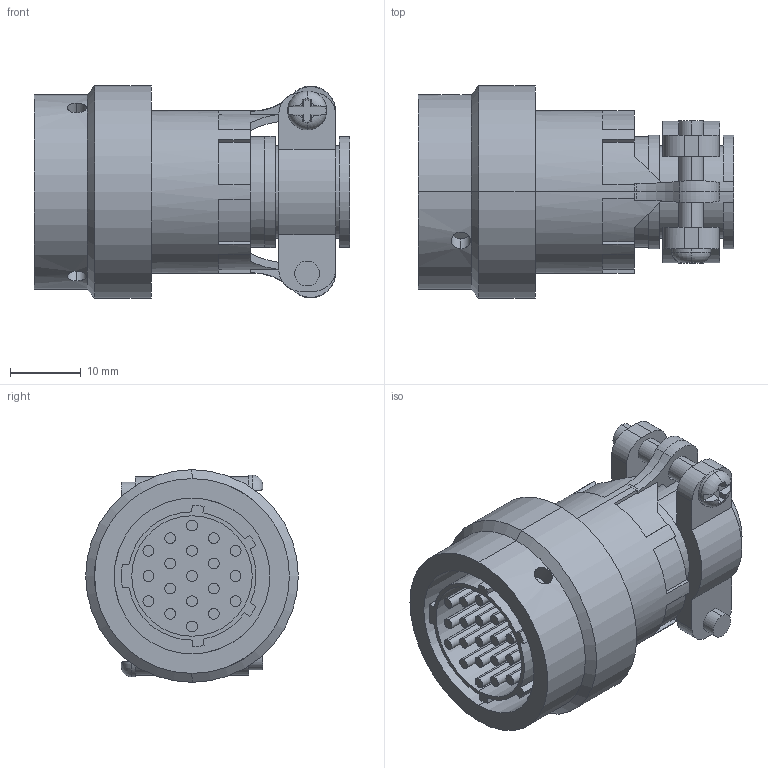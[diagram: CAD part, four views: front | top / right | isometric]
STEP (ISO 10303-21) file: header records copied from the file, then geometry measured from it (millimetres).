
FILE_DESCRIPTION (( 'STEP AP214' ), '1' );
FILE_NAME ('MS3116F14-19P.STEP', '2021-06-09T09:36:16', ( '微软用户' ), ( '微软中国' ), 'SwSTEP 2.0', 'SolidWorks 2018', '' );
FILE_SCHEMA (( 'AUTOMOTIVE_DESIGN' ));
Length unit declared in the file: millimetre
Products named in the file (1): MS3116F14-19P
Bounding box: 44.5 x 30 x 30 mm (x, y, z)
Volume: 16161.3 mm3; surface area: 10244.2 mm2
Topology: 2 solids, 2 shells, 296 faces, 752 edges, 491 vertices
Faces by surface type: plane 141, cylinder 119, torus 25, cone 11
Entity records: 9417 total; most frequent: CARTESIAN_POINT 1942, DIRECTION 1658, ORIENTED_EDGE 1504, EDGE_CURVE 752, AXIS2_PLACEMENT_3D 653, VERTEX_POINT 491, CIRCLE 356, VECTOR 352
